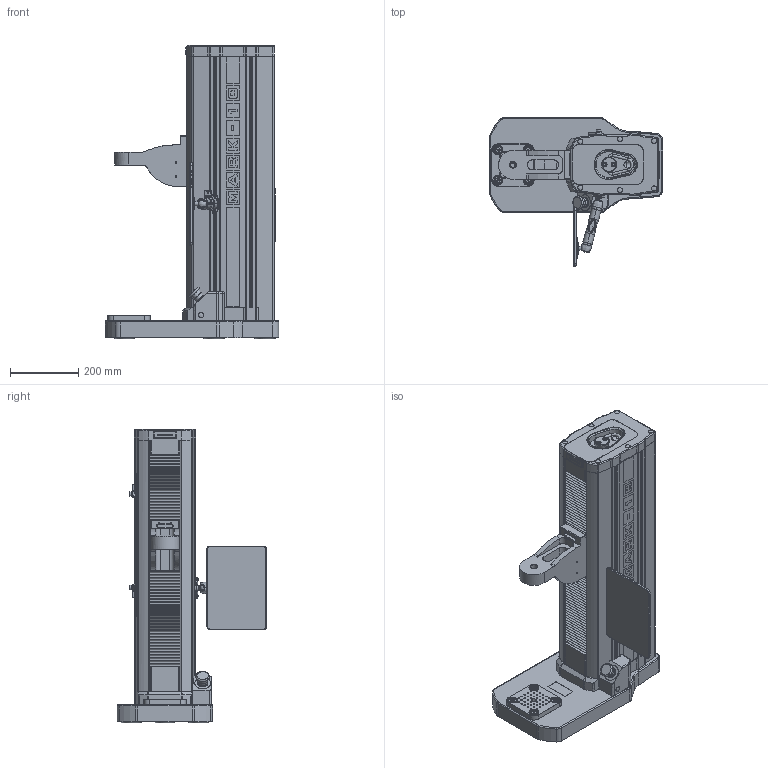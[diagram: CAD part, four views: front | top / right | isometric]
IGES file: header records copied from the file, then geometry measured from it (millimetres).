
Global section: file name: F1505S_IMT; native system: Autodesk RealDWG; preprocessor: Autodesk Translation Framework DWG producer (atf_dwg_producer); organization: unknown; date: 20210205.151906; units: inch
Bounding box: 508 x 437.5 x 862.08 mm (x, y, z)
Volume: 41558997.2 mm3; surface area: 1843541.4 mm2
Topology: 5 solids, 12 shells, 8642 faces, 25738 edges, 17863 vertices
Faces by surface type: bspline 8642
